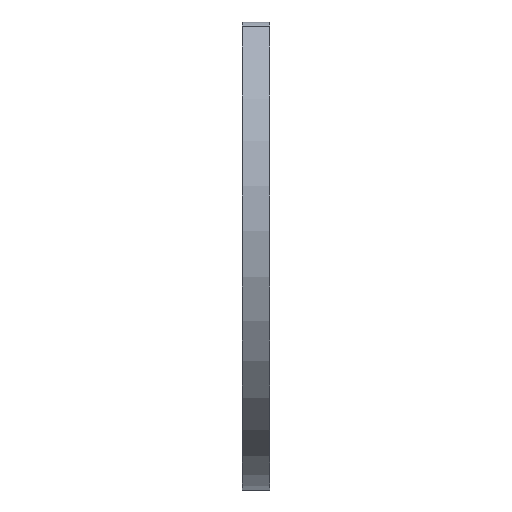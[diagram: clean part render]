
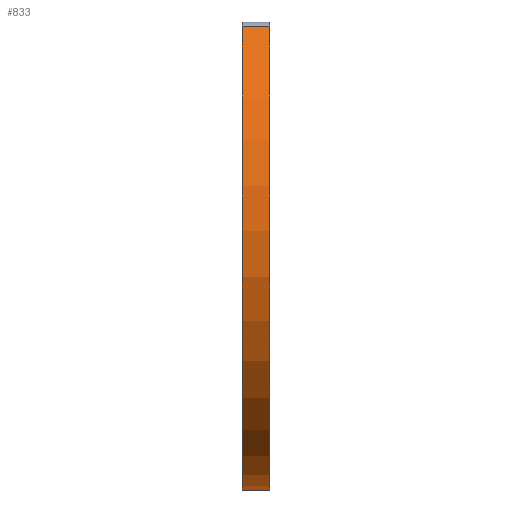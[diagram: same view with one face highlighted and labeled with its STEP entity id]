
A CAD part, left-side view. The second image highlights one B-rep face of the part: STEP entity #833.
In plain terms, the highlighted cylindrical face has radius 14.7 mm (diameter 29.4 mm), a partial arc.
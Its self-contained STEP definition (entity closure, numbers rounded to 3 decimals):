
#10 = CIRCLE ( 'NONE', #295, 14.7 ) ;
#36 = CARTESIAN_POINT ( 'NONE',  ( 0., -0.75, -14.7 ) ) ;
#111 = CARTESIAN_POINT ( 'NONE',  ( -10.062, -0.75, 10.716 ) ) ;
#117 = AXIS2_PLACEMENT_3D ( 'NONE', #242, #601, #465 ) ;
#155 = CARTESIAN_POINT ( 'NONE',  ( 0., 0.75, 0. ) ) ;
#159 = DIRECTION ( 'NONE',  ( 0., 0., -1. ) ) ;
#184 = LINE ( 'NONE', #374, #505 ) ;
#204 = ORIENTED_EDGE ( 'NONE', *, *, #468, .T. ) ;
#209 = AXIS2_PLACEMENT_3D ( 'NONE', #155, #237, #159 ) ;
#237 = DIRECTION ( 'NONE',  ( 0., -1., 0. ) ) ;
#242 = CARTESIAN_POINT ( 'NONE',  ( 0., 0.75, 0. ) ) ;
#256 = CARTESIAN_POINT ( 'NONE',  ( -10.062, 0.75, 10.716 ) ) ;
#295 = AXIS2_PLACEMENT_3D ( 'NONE', #763, #828, #686 ) ;
#317 = CARTESIAN_POINT ( 'NONE',  ( -10.062, 0.75, 10.716 ) ) ;
#326 = EDGE_CURVE ( 'NONE', #368, #879, #329, .T. ) ;
#329 = CIRCLE ( 'NONE', #117, 14.7 ) ;
#347 = FACE_OUTER_BOUND ( 'NONE', #678, .T. ) ;
#368 = VERTEX_POINT ( 'NONE', #455 ) ;
#369 = DIRECTION ( 'NONE',  ( 0., -1., 0. ) ) ;
#374 = CARTESIAN_POINT ( 'NONE',  ( 0., 0.75, -14.7 ) ) ;
#380 = ORIENTED_EDGE ( 'NONE', *, *, #326, .F. ) ;
#397 = CYLINDRICAL_SURFACE ( 'NONE', #209, 14.7 ) ;
#437 = ORIENTED_EDGE ( 'NONE', *, *, #438, .T. ) ;
#438 = EDGE_CURVE ( 'NONE', #536, #562, #10, .T. ) ;
#449 = VECTOR ( 'NONE', #900, 1000. ) ;
#455 = CARTESIAN_POINT ( 'NONE',  ( 0., 0.75, -14.7 ) ) ;
#465 = DIRECTION ( 'NONE',  ( 0., 0., 1. ) ) ;
#468 = EDGE_CURVE ( 'NONE', #562, #879, #593, .T. ) ;
#505 = VECTOR ( 'NONE', #369, 1000. ) ;
#536 = VERTEX_POINT ( 'NONE', #36 ) ;
#562 = VERTEX_POINT ( 'NONE', #111 ) ;
#593 = LINE ( 'NONE', #256, #449 ) ;
#601 = DIRECTION ( 'NONE',  ( 0., 1., 0. ) ) ;
#659 = ORIENTED_EDGE ( 'NONE', *, *, #753, .T. ) ;
#678 = EDGE_LOOP ( 'NONE', ( #380, #659, #437, #204 ) ) ;
#686 = DIRECTION ( 'NONE',  ( 0., 0., 1. ) ) ;
#753 = EDGE_CURVE ( 'NONE', #368, #536, #184, .T. ) ;
#763 = CARTESIAN_POINT ( 'NONE',  ( 0., -0.75, 0. ) ) ;
#828 = DIRECTION ( 'NONE',  ( 0., 1., 0. ) ) ;
#833 = ADVANCED_FACE ( 'NONE', ( #347 ), #397, .T. ) ;
#879 = VERTEX_POINT ( 'NONE', #317 ) ;
#900 = DIRECTION ( 'NONE',  ( 0., 1., 0. ) ) ;
